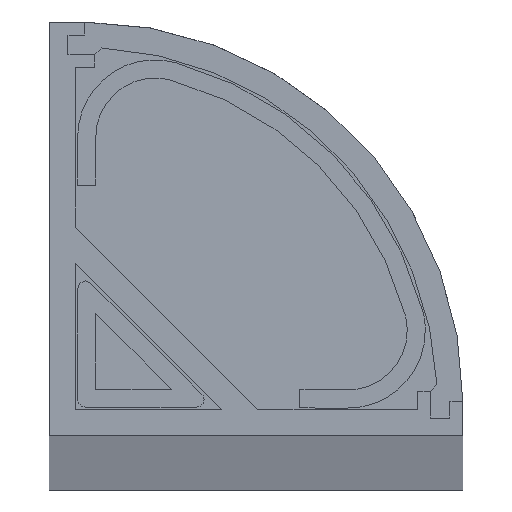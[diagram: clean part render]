
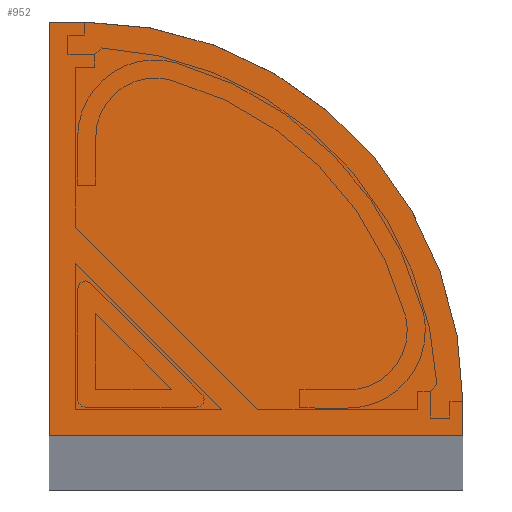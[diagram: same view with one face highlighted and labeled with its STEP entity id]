
A CAD part, top view. The second image highlights one B-rep face of the part: STEP entity #952.
In plain terms, the highlighted planar face has unit normal (0, 0, 1).
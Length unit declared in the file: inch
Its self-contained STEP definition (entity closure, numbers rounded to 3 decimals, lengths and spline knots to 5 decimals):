
#47 = CARTESIAN_POINT ( 'NONE',  ( 1.30505, 0.62992, 0.0748 ) ) ;
#111 = DIRECTION ( 'NONE',  ( 0., 0., 1. ) ) ;
#117 = DIRECTION ( 'NONE',  ( -1., 0., 0. ) ) ;
#132 = LINE ( 'NONE', #875, #1960 ) ;
#137 = EDGE_CURVE ( 'NONE', #1381, #2198, #518, .T. ) ;
#148 = ORIENTED_EDGE ( 'NONE', *, *, #137, .T. ) ;
#320 = CIRCLE ( 'NONE', #477, 0.5775 ) ;
#331 = DIRECTION ( 'NONE',  ( 1., 0., 0. ) ) ;
#337 = PLANE ( 'NONE',  #1204 ) ;
#405 = VERTEX_POINT ( 'NONE', #1362 ) ;
#477 = AXIS2_PLACEMENT_3D ( 'NONE', #1027, #2141, #331 ) ;
#502 = CARTESIAN_POINT ( 'NONE',  ( 1.93497, 0., 0.0748 ) ) ;
#518 = LINE ( 'NONE', #47, #2008 ) ;
#535 = CARTESIAN_POINT ( 'NONE',  ( 1.35747, 0.05242, 0.0748 ) ) ;
#564 = EDGE_CURVE ( 'NONE', #2291, #872, #1805, .T. ) ;
#596 = CARTESIAN_POINT ( 'NONE',  ( 1.93497, 0., 0.0748 ) ) ;
#708 = VECTOR ( 'NONE', #709, 39.37008 ) ;
#709 = DIRECTION ( 'NONE',  ( 0., 1., 0. ) ) ;
#730 = ORIENTED_EDGE ( 'NONE', *, *, #1578, .T. ) ;
#872 = VERTEX_POINT ( 'NONE', #1531 ) ;
#875 = CARTESIAN_POINT ( 'NONE',  ( 1.35937, 0.62992, 0.0748 ) ) ;
#898 = DIRECTION ( 'NONE',  ( 1., 0., 0. ) ) ;
#952 = ADVANCED_FACE ( 'NONE', ( #2344 ), #337, .T. ) ;
#970 = EDGE_CURVE ( 'NONE', #872, #405, #320, .T. ) ;
#1027 = CARTESIAN_POINT ( 'NONE',  ( 1.35747, 0.05242, 0.0748 ) ) ;
#1120 = DIRECTION ( 'NONE',  ( 0., -1., 0. ) ) ;
#1156 = ORIENTED_EDGE ( 'NONE', *, *, #970, .T. ) ;
#1168 = CARTESIAN_POINT ( 'NONE',  ( 1.30505, 0., 0.0748 ) ) ;
#1192 = VECTOR ( 'NONE', #1321, 39.37008 ) ;
#1204 = AXIS2_PLACEMENT_3D ( 'NONE', #535, #111, #898 ) ;
#1249 = CARTESIAN_POINT ( 'NONE',  ( 1.30505, 0.62992, 0.0748 ) ) ;
#1291 = ORIENTED_EDGE ( 'NONE', *, *, #2225, .T. ) ;
#1313 = EDGE_LOOP ( 'NONE', ( #1156, #730, #148, #1291, #2255 ) ) ;
#1321 = DIRECTION ( 'NONE',  ( 1., 0., 0. ) ) ;
#1362 = CARTESIAN_POINT ( 'NONE',  ( 1.35937, 0.62992, 0.0748 ) ) ;
#1365 = LINE ( 'NONE', #1168, #1192 ) ;
#1381 = VERTEX_POINT ( 'NONE', #1249 ) ;
#1531 = CARTESIAN_POINT ( 'NONE',  ( 1.93497, 0.05266, 0.0748 ) ) ;
#1578 = EDGE_CURVE ( 'NONE', #405, #1381, #132, .T. ) ;
#1805 = LINE ( 'NONE', #502, #708 ) ;
#1933 = CARTESIAN_POINT ( 'NONE',  ( 1.30505, 0., 0.0748 ) ) ;
#1960 = VECTOR ( 'NONE', #117, 39.37008 ) ;
#2008 = VECTOR ( 'NONE', #1120, 39.37008 ) ;
#2141 = DIRECTION ( 'NONE',  ( 0., 0., 1. ) ) ;
#2198 = VERTEX_POINT ( 'NONE', #1933 ) ;
#2225 = EDGE_CURVE ( 'NONE', #2198, #2291, #1365, .T. ) ;
#2255 = ORIENTED_EDGE ( 'NONE', *, *, #564, .T. ) ;
#2291 = VERTEX_POINT ( 'NONE', #596 ) ;
#2344 = FACE_OUTER_BOUND ( 'NONE', #1313, .T. ) ;
